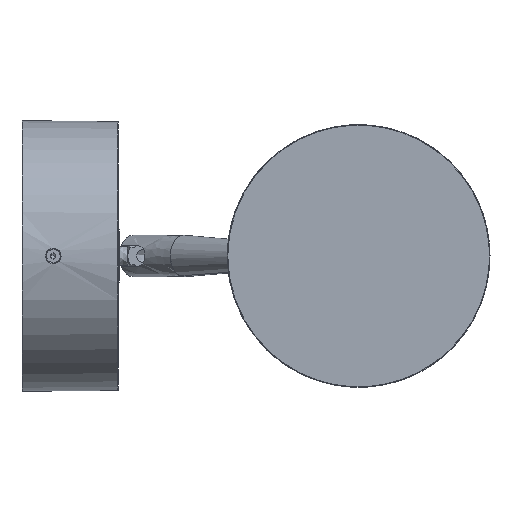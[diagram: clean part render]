
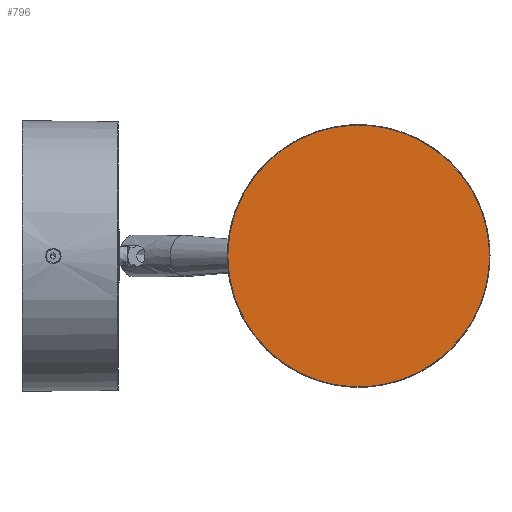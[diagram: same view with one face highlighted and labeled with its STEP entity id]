
A CAD part, front view. The second image highlights one B-rep face of the part: STEP entity #796.
In plain terms, the highlighted planar face has unit normal (0, -1, 0).
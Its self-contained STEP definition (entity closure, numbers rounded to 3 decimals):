
#796=ADVANCED_FACE('',(#1716),#13402,.T.);
#1716=FACE_OUTER_BOUND('',#2678,.T.);
#2678=EDGE_LOOP('',(#5860,#5861));
#5860=ORIENTED_EDGE('',*,*,#8870,.F.);
#5861=ORIENTED_EDGE('',*,*,#8922,.T.);
#8870=EDGE_CURVE('',#12771,#12772,#11579,.T.);
#8922=EDGE_CURVE('',#12771,#12772,#11601,.T.);
#11579=(
BOUNDED_CURVE()
B_SPLINE_CURVE(2,(#40389,#40390,#40391,#40392,#40393),.UNSPECIFIED.,.F.,
 .F.)
B_SPLINE_CURVE_WITH_KNOTS((3,2,3),(0.,79.006,158.011),
 .UNSPECIFIED.)
CURVE()
GEOMETRIC_REPRESENTATION_ITEM()
RATIONAL_B_SPLINE_CURVE((1.,0.707,1.,0.707,1.))
REPRESENTATION_ITEM('')
);
#11601=(
BOUNDED_CURVE()
B_SPLINE_CURVE(2,(#40559,#40560,#40561,#40562,#40563),.UNSPECIFIED.,.F.,
 .F.)
B_SPLINE_CURVE_WITH_KNOTS((3,2,3),(-158.011,-79.006,
0.),.UNSPECIFIED.)
CURVE()
GEOMETRIC_REPRESENTATION_ITEM()
RATIONAL_B_SPLINE_CURVE((1.,0.707,1.,0.707,1.))
REPRESENTATION_ITEM('')
);
#12771=VERTEX_POINT('',#40132);
#12772=VERTEX_POINT('',#40133);
#13402=PLANE('',#14291);
#14291=AXIS2_PLACEMENT_3D('',#38362,#14525,$);
#14525=DIRECTION('',(0.,-1.,0.));
#38362=CARTESIAN_POINT('',(69.047,-82.404,-60.356));
#40132=CARTESIAN_POINT('',(79.106,-82.404,0.));
#40133=CARTESIAN_POINT('',(179.699,-82.404,0.));
#40389=CARTESIAN_POINT('',(79.106,-82.404,0.));
#40390=CARTESIAN_POINT('',(79.106,-82.404,50.296));
#40391=CARTESIAN_POINT('',(129.403,-82.404,50.296));
#40392=CARTESIAN_POINT('',(179.699,-82.404,50.296));
#40393=CARTESIAN_POINT('',(179.699,-82.404,0.));
#40559=CARTESIAN_POINT('',(79.106,-82.404,0.));
#40560=CARTESIAN_POINT('',(79.106,-82.404,-50.296));
#40561=CARTESIAN_POINT('',(129.403,-82.404,-50.296));
#40562=CARTESIAN_POINT('',(179.699,-82.404,-50.296));
#40563=CARTESIAN_POINT('',(179.699,-82.404,0.));
